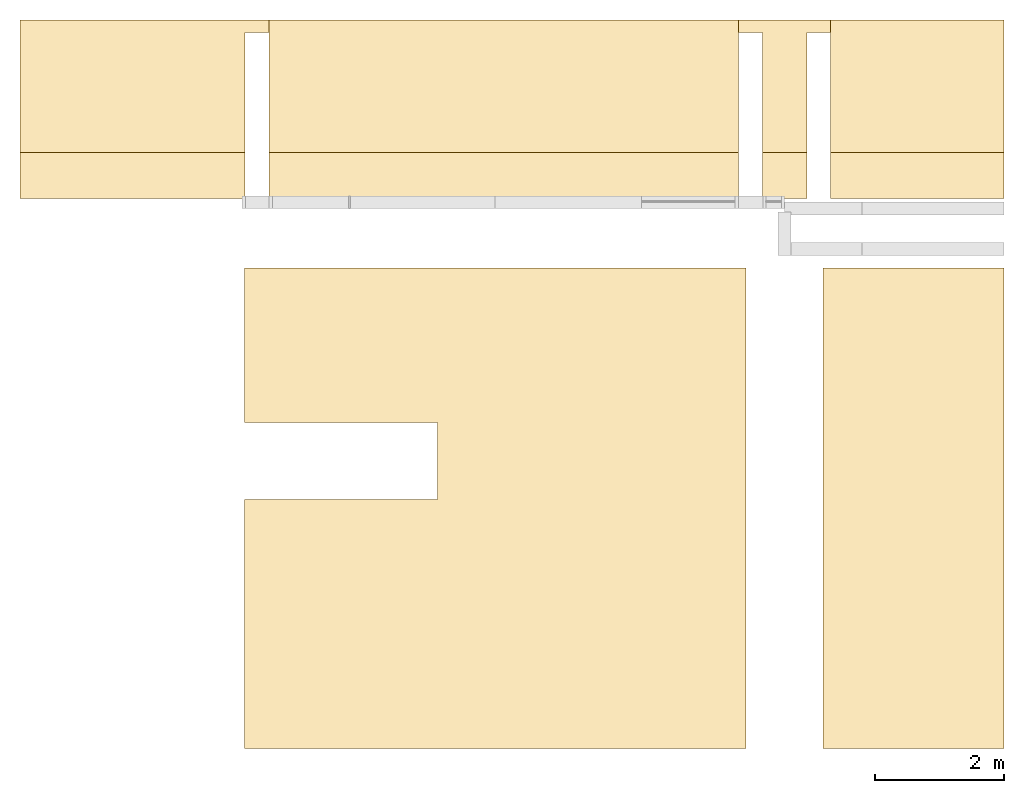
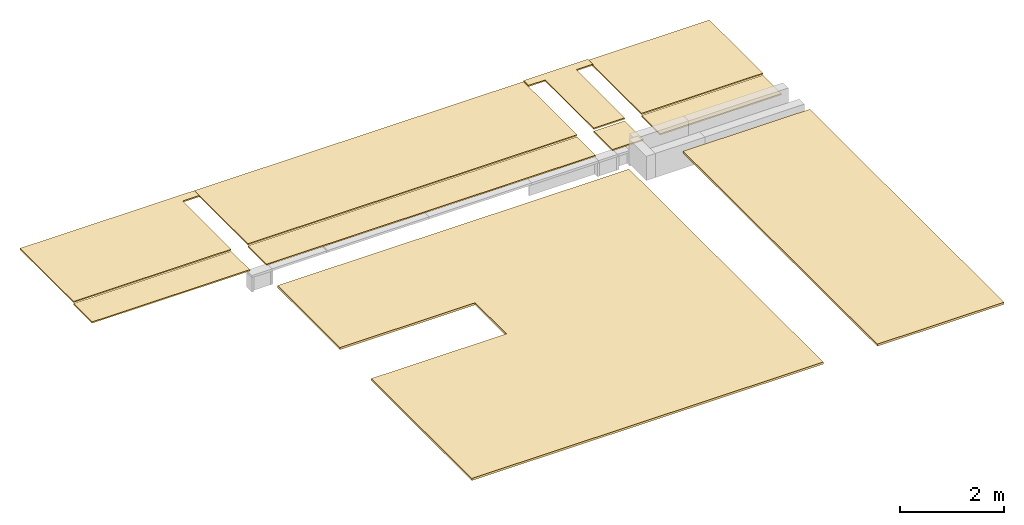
# One storey, part 2 of 2: 10 coverings.
"""IFC2X3 building model written with IfcOpenShell, lengths in millimetres."""

import ifcopenshell
import ifcopenshell.guid

model = None  # the IFC model being written
_history = None  # IfcOwnerHistory: only IFC2X3 demands one
_inside = {}  # id of a spatial element -> (the spatial element, [elements in it])
_under = {}  # id of a project, library or spatial element -> (it, [spatial elements below it])
_declared = {}  # id of a project -> (the project, [libraries it declares])
_typed = {}  # id of a type object -> (the type object, [elements of that type])
_made_of = {}  # id of a material, layer set ... -> (it, [elements and type objects made of it])


def new_model(schema):
    """Start an empty IFC model of exactly this schema.

    Asked for "IFC4X3", IfcOpenShell would pick the latest addendum, in which some entities
    have other attributes; the version numbers below select the first issue.
    IFC2X3 requires an IfcOwnerHistory on every rooted entity: one is made here for all.
    """
    global model, _history
    if schema == "IFC4X3":
        model = ifcopenshell.file(schema_version=(4, 3, 0, 0))
    else:
        model = ifcopenshell.file(schema=schema)
    _inside.clear()
    _under.clear()
    _declared.clear()
    _typed.clear()
    _made_of.clear()
    _history = None
    if model.schema == "IFC2X3":
        org = make("IfcOrganization", Name="unknown")
        user = make(
            "IfcPersonAndOrganization",
            ThePerson=make("IfcPerson", FamilyName="unknown"),
            TheOrganization=org,
        )
        app = make(
            "IfcApplication",
            ApplicationDeveloper=org,
            Version="unknown",
            ApplicationFullName="unknown",
            ApplicationIdentifier="unknown",
        )
        _history = make(
            "IfcOwnerHistory",
            OwningUser=user,
            OwningApplication=app,
            ChangeAction="ADDED",
            CreationDate=0,
        )
    return model


def make(cls, **values):
    """One entity of the class cls with the attributes given. An attribute that is None is left unset."""
    return model.create_entity(
        cls, **{name: value for name, value in values.items() if value is not None}
    )


def entity(cls, *values):
    """Any entity or typed value of the class cls, its attributes in the order of the schema. None: left unset."""
    e = model.create_entity(cls)
    for i, value in enumerate(values):
        if value is not None:
            e[i] = value
    return e


def rooted(cls, **values):
    """An entity with a GlobalId (a new one), such as an element, a storey or a relation."""
    return make(cls, GlobalId=ifcopenshell.guid.new(), OwnerHistory=_history, **values)


def si_unit(unit_type, name, prefix=None):
    """IfcSIUnit, for example si_unit("LENGTHUNIT", "METRE", prefix="MILLI")."""
    return make("IfcSIUnit", UnitType=unit_type, Prefix=prefix, Name=name)


def converted_unit(unit_type, name, factor, base, dimensions=None, offset=None):
    """IfcConversionBasedUnit, such as the inch: factor (a typed value) times the base unit."""
    return make(
        "IfcConversionBasedUnit"
        if offset is None
        else "IfcConversionBasedUnitWithOffset",
        ConversionOffset=offset,
        Dimensions=None
        if dimensions is None
        else entity("IfcDimensionalExponents", *dimensions),
        UnitType=unit_type,
        Name=name,
        ConversionFactor=make(
            "IfcMeasureWithUnit", ValueComponent=factor, UnitComponent=base
        ),
    )


def derived_unit(unit_type, elements):
    """IfcDerivedUnit: a product of units, each with its exponent."""
    return make(
        "IfcDerivedUnit",
        Elements=[
            make("IfcDerivedUnitElement", Unit=unit, Exponent=power)
            for unit, power in elements
        ],
        UnitType=unit_type,
    )


def assignment(units):
    """IfcUnitAssignment: the units of a project."""
    return None if units is None else make("IfcUnitAssignment", Units=units)


def point(xyz):
    """IfcCartesianPoint."""
    return None if xyz is None else make("IfcCartesianPoint", Coordinates=xyz)


def direction(xyz):
    """IfcDirection."""
    return None if xyz is None else make("IfcDirection", DirectionRatios=xyz)


def frame(location, z_axis=None, x_axis=None):
    """IfcAxis2Placement3D, a coordinate frame: its origin and axes. An axis left out is left unset."""
    return make(
        "IfcAxis2Placement3D",
        Location=point(location),
        Axis=direction(z_axis),
        RefDirection=direction(x_axis),
    )


def frame_2d(location, x_axis=None):
    """IfcAxis2Placement2D, a coordinate frame in the plane: its origin and x axis."""
    return make(
        "IfcAxis2Placement2D", Location=point(location), RefDirection=direction(x_axis)
    )


def origin_with_axes():
    """The frame at (0, 0, 0) with the z axis (0, 0, 1) and the x axis (1, 0, 0) written out."""
    return frame((0.0, 0.0, 0.0), z_axis=(0.0, 0.0, 1.0), x_axis=(1.0, 0.0, 0.0))


def origin_2d_with_axis():
    """The frame at (0, 0) in the plane with the x axis (1, 0) written out."""
    return frame_2d((0.0, 0.0), x_axis=(1.0, 0.0))


def place(relative_to, where):
    """IfcLocalPlacement: puts the frame where relative to a parent placement (None: the world)."""
    return make(
        "IfcLocalPlacement", PlacementRelTo=relative_to, RelativePlacement=where
    )


def context(
    kind, dimensions, precision=None, world=None, true_north=None, identifier=None
):
    """IfcGeometricRepresentationContext, for example the 3D "Model" context."""
    return make(
        "IfcGeometricRepresentationContext",
        ContextIdentifier=identifier,
        ContextType=kind,
        CoordinateSpaceDimension=dimensions,
        Precision=precision,
        WorldCoordinateSystem=world,
        TrueNorth=true_north,
    )


def subcontext(parent, identifier, kind, view, scale=None):
    """IfcGeometricRepresentationSubContext, for example "Body" below "Model"."""
    return make(
        "IfcGeometricRepresentationSubContext",
        ContextIdentifier=identifier,
        ContextType=kind,
        ParentContext=parent,
        TargetScale=scale,
        TargetView=view,
    )


def project(units=None, contexts=None):
    """IfcProject with its units and contexts."""
    return rooted(
        "IfcProject",
        Name="project",
        RepresentationContexts=contexts,
        UnitsInContext=assignment(units),
    )


def spatial(cls, under=None, at=None, **own):
    """A site, building, storey or space (cls), placed at a placement, below another one or the project."""
    s = rooted(cls, ObjectPlacement=at, **own)
    if under is not None:
        _under.setdefault(under.id(), (under, []))[1].append(s)
    return s


def profile(cls, at=None, kind="AREA", **sizes):
    """A parametric profile (cls). Its sizes go by their IFC names, for example OverallWidth=200.0."""
    return make(cls, ProfileType=kind, Position=at, **sizes)


def rectangle(**sizes):
    """IfcRectangleProfileDef."""
    return profile("IfcRectangleProfileDef", **sizes)


def extrude(swept, where, along, depth):
    """IfcExtrudedAreaSolid: the profile swept, set in the frame where, extruded along a direction by depth."""
    return make(
        "IfcExtrudedAreaSolid",
        SweptArea=swept,
        Position=where,
        ExtrudedDirection=direction(along),
        Depth=depth,
    )


def faces_of(points, faces, orient=None, outer=None):
    """IfcFace entities. A face is a list of loops; a loop is a list of indices into points, from 0.

    orient and outer hold one flag for each loop. By default every Orientation is true, the
    first loop of a face is its IfcFaceOuterBound and the others are IfcFaceBound.
    """
    made = []
    for i, loops in enumerate(faces):
        bounds = []
        for j, loop in enumerate(loops):
            is_outer = j == 0 if outer is None else outer[i][j]
            bounds.append(
                make(
                    "IfcFaceOuterBound" if is_outer else "IfcFaceBound",
                    Bound=make("IfcPolyLoop", Polygon=[points[k] for k in loop]),
                    Orientation=True if orient is None else orient[i][j],
                )
            )
        made.append(make("IfcFace", Bounds=bounds))
    return made


def faceted_brep(points, faces, orient=None, outer=None, voids=None):
    """IfcFacetedBrep: a solid bounded by flat faces; with voids (closed shells), ...WithVoids."""
    shared = [point(p) for p in points]
    hull = make("IfcClosedShell", CfsFaces=faces_of(shared, faces, orient, outer))
    if voids is None:
        return make("IfcFacetedBrep", Outer=hull)
    return make(
        "IfcFacetedBrepWithVoids",
        Outer=hull,
        Voids=[
            make(cls, CfsFaces=faces_of(shared, fs, o, b)) for cls, fs, o, b in voids
        ],
    )


def shape(context_of_items, identifier, shape_type, items):
    """IfcShapeRepresentation: the items that make up one representation, for example the "Body"."""
    return make(
        "IfcShapeRepresentation",
        ContextOfItems=context_of_items,
        RepresentationIdentifier=identifier,
        RepresentationType=shape_type,
        Items=items,
    )


def material(Name=None, Category=None):
    """IfcMaterial."""
    return make("IfcMaterial", Name=Name, Category=Category)


def layer(
    of_material, thickness, ventilated=None, Name=None, Category=None, Priority=None
):
    """IfcMaterialLayer: one layer of a wall or slab, of a material (None: an air gap)."""
    return make(
        "IfcMaterialLayer",
        Material=of_material,
        LayerThickness=thickness,
        IsVentilated=ventilated,
        Name=Name,
        Category=Category,
        Priority=Priority,
    )


def layer_set(layers, Name=None):
    """IfcMaterialLayerSet."""
    return make("IfcMaterialLayerSet", MaterialLayers=layers, LayerSetName=Name)


def layer_usage(for_layer_set, set_direction, sense, offset, extent=None):
    """IfcMaterialLayerSetUsage: how a layer set lies in its element."""
    return make(
        "IfcMaterialLayerSetUsage",
        ForLayerSet=for_layer_set,
        LayerSetDirection=set_direction,
        DirectionSense=sense,
        OffsetFromReferenceLine=offset,
        ReferenceExtent=extent,
    )


def made_of(thing, what):
    """Note that an element or type object is made of a material, layer set ...; save() writes the relation."""
    if what is not None:
        _made_of.setdefault(what.id(), (what, []))[1].append(thing)
    return thing


def type_object(cls, material=None, **own):
    """A type object (cls), such as IfcWallType, which elements share."""
    return made_of(rooted(cls, **own), material)


def element(
    cls,
    number,
    at=None,
    inside=None,
    cuts=None,
    type_object=None,
    material=None,
    context=None,
    identifier="Body",
    shape_type=None,
    held_by="IfcProductDefinitionShape",
    body=None,
    shapes=None,
    **own,
):
    """One element of the class cls, such as IfcWall. Its Tag is "e" and its number.

    at: its placement. inside: the storey or other place that contains it. cuts: it is an
    opening in that element (IfcRelVoidsElement). A single representation is given by context,
    identifier, shape_type and body (its items); several are given by shapes. held_by: the class
    of the entity that holds the representations. save() writes the other relations.
    """
    e = rooted(cls, Tag="e%d" % number, ObjectPlacement=at, **own)
    if body is not None:
        shapes = [shape(context, identifier, shape_type, body)]
    if shapes is not None:
        e.Representation = make(held_by, Representations=shapes)
    if inside is not None:
        _inside.setdefault(inside.id(), (inside, []))[1].append(e)
    if cuts is not None:
        rooted(
            "IfcRelVoidsElement", RelatingBuildingElement=cuts, RelatedOpeningElement=e
        )
    if type_object is not None:
        _typed.setdefault(type_object.id(), (type_object, []))[1].append(e)
    return made_of(e, material)


def aggregate(whole, parts):
    """IfcRelAggregates: a whole, such as a stair, and the parts it consists of."""
    return rooted("IfcRelAggregates", RelatingObject=whole, RelatedObjects=parts)


def save(model, path):
    """Write the relations noted so far, then the file.

    IfcRelAggregates (storeys below a building ...), IfcRelContainedInSpatialStructure (elements
    in a storey), IfcRelDefinesByType, IfcRelAssociatesMaterial and IfcRelDeclares: one each for
    every whole, place, type object, material and project.
    """
    for whole, parts in _under.values():
        aggregate(whole, parts)
    for where, things in _inside.values():
        rooted(
            "IfcRelContainedInSpatialStructure",
            RelatedElements=things,
            RelatingStructure=where,
        )
    for kind, things in _typed.values():
        rooted("IfcRelDefinesByType", RelatedObjects=things, RelatingType=kind)
    for what, things in _made_of.values():
        rooted("IfcRelAssociatesMaterial", RelatedObjects=things, RelatingMaterial=what)
    for by, libraries in _declared.values():
        rooted("IfcRelDeclares", RelatingContext=by, RelatedDefinitions=libraries)
    model.write(path)


model = new_model("IFC2X3")

# Units and contexts
model_context = context("Model", 3, precision=0.01, world=frame((0.0, 4.29681676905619e-09, 0.0)), true_north=direction((4.01073788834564e-13, 1.0)))
plan_context = context("Plan", 3, precision=0.01, world=frame((0.0, 4.29681676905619e-09, 0.0)), true_north=direction((4.01073788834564e-13, 1.0)))
body_context = subcontext(model_context, "Body", "Model", "MODEL_VIEW")
ifc_project = project(units=[converted_unit("PLANEANGLEUNIT", "DEGREE", entity("IfcPositiveLengthMeasure", 0.0174532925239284), si_unit("PLANEANGLEUNIT", "RADIAN"), dimensions=[0, 0, 0, 0, 0, 0, 0]), si_unit("AREAUNIT", "SQUARE_METRE"), si_unit("LENGTHUNIT", "METRE", prefix="MILLI"), si_unit("MASSUNIT", "GRAM", prefix="KILO"), si_unit("POWERUNIT", "WATT"), si_unit("PRESSUREUNIT", "PASCAL"), si_unit("FORCEUNIT", "NEWTON", prefix="KILO"), si_unit("ELECTRICVOLTAGEUNIT", "VOLT"), si_unit("ELECTRICCURRENTUNIT", "AMPERE"), si_unit("THERMODYNAMICTEMPERATUREUNIT", "DEGREE_CELSIUS"), si_unit("TIMEUNIT", "SECOND"), si_unit("VOLUMEUNIT", "CUBIC_METRE"), derived_unit("LINEARVELOCITYUNIT", [(si_unit("LENGTHUNIT", "METRE"), 1), (si_unit("TIMEUNIT", "SECOND"), -1)]), derived_unit("VOLUMETRICFLOWRATEUNIT", [(si_unit("VOLUMEUNIT", "CUBIC_METRE"), 1), (si_unit("TIMEUNIT", "SECOND"), -1)]), derived_unit("THERMALTRANSMITTANCEUNIT", [(si_unit("POWERUNIT", "WATT"), 1), (si_unit("THERMODYNAMICTEMPERATUREUNIT", "KELVIN"), -1), (si_unit("AREAUNIT", "SQUARE_METRE"), -1)]), derived_unit("SOUNDPRESSUREUNIT", [(si_unit("PRESSUREUNIT", "PASCAL"), 1)])], contexts=[model_context, plan_context])

# Site, building, storey
site_placement = place(None, origin_with_axes())
site = spatial("IfcSite", under=ifc_project, at=site_placement, Name="ENGM", CompositionType="ELEMENT")
building_placement = place(site_placement, origin_with_axes())
building = spatial("IfcBuilding", under=site, at=building_placement, Name="TH", CompositionType="ELEMENT")
storey_placement = place(building_placement, frame((0.0, 0.0, 205200.0), z_axis=(0.0, 0.0, 1.0), x_axis=(1.0, 0.0, 0.0)))
storey = spatial("IfcBuildingStorey", under=building, at=storey_placement, Name="Nivå D + 1,2 m", CompositionType="ELEMENT", Elevation=205200.0)

# Coverings
ifc_material = material(Name="T2_Himling Perforerte Metallkassetter 600 x 3000mm")
ifc_layer = layer(ifc_material, 30.0)
ifc_layer_set = layer_set([ifc_layer], Name="Compound Ceiling:A255 - Perforerte metallkasetter 3000x600")
ifc_layer_usage_1 = layer_usage(ifc_layer_set, "AXIS3", "NEGATIVE", 30.0)
covering_type_1 = type_object("IfcCoveringType", Name="Compound Ceiling:A255 - Perforerte metallkasetter 3000x600", PredefinedType="CEILING")
covering_1_placement = place(storey_placement, origin_with_axes())
element("IfcCovering", 1, at=covering_1_placement, inside=storey, type_object=covering_type_1, material=ifc_layer_usage_1, Name="Compound Ceiling:A255 - Perforerte metallkasetter 3000x600", ObjectType="Compound Ceiling:A255 - Perforerte metallkasetter 3000x600", PredefinedType="CEILING", context=body_context, shape_type="SweptSolid", body=[
    extrude(rectangle(XDim=715.000000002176, YDim=7304.86118256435, at=origin_2d_with_axis()), frame((902632.574431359, 484942.110571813, 4244.0), z_axis=(0.0, 0.0, 1.0), x_axis=(0.0, -1.0, 0.0)), (0.0, 0.0, 1.0), 29.9999999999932),
])
ifc_layer_usage_2 = layer_usage(ifc_layer_set, "AXIS3", "NEGATIVE", 30.0)
covering_2_placement = place(storey_placement, origin_with_axes())
element("IfcCovering", 2, at=covering_2_placement, inside=storey, type_object=covering_type_1, material=ifc_layer_usage_2, Name="Compound Ceiling:A255 - Perforerte metallkasetter 3000x600", ObjectType="Compound Ceiling:A255 - Perforerte metallkasetter 3000x600", PredefinedType="CEILING", context=body_context, shape_type="SweptSolid", body=[
    extrude(rectangle(XDim=715.000000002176, YDim=689.856159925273, at=frame_2d((3.46460637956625e-11, 0.0), x_axis=(1.0, 0.0))), frame((907000.07192004, 484942.110571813, 4244.0), z_axis=(0.0, 0.0, 1.0), x_axis=(0.0, -1.0, 0.0)), (0.0, 0.0, 1.0), 29.9999999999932),
])
covering_3_placement = place(storey_placement, origin_with_axes())
element("IfcCovering", 3, at=covering_3_placement, inside=storey, type_object=covering_type_1, Name="Compound Ceiling:A255 - Perforerte metallkasetter 3000x600", ObjectType="Compound Ceiling:A255 - Perforerte metallkasetter 3000x600", PredefinedType="CEILING", context=body_context, shape_type="Brep", body=[
    faceted_brep([(895111.906168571, 485299.610571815, 4290.0), (895111.906168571, 485299.610571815, 4319.99999999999), (898610.005022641, 485299.610571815, 4319.99999999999), (898610.005022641, 485299.610571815, 4290.0), (898610.005022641, 487164.999999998, 4319.99999999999), (898610.005022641, 487164.999999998, 4290.0), (898980.143840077, 487164.999999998, 4319.99999999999), (898980.143840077, 487164.999999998, 4290.0), (898980.143840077, 487357.650000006, 4319.99999999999), (898980.143840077, 487357.650000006, 4290.0), (895111.906168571, 487357.650000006, 4290.0), (895111.906168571, 487357.650000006, 4319.99999999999)], [[[0, 1, 2, 3]], [[3, 2, 4, 5]], [[5, 4, 6, 7]], [[8, 9, 7, 6]], [[9, 10, 0, 3, 5, 7]], [[1, 11, 8, 6, 4, 2]], [[10, 9, 8, 11]], [[11, 1, 0, 10]]], orient=[[False], [False], [False], [False], [False], [False], [False], [False]]),
])
covering_4_placement = place(storey_placement, origin_with_axes())
element("IfcCovering", 4, at=covering_4_placement, inside=storey, type_object=covering_type_1, Name="Compound Ceiling:A255 - Perforerte metallkasetter 3000x600", ObjectType="Compound Ceiling:A255 - Perforerte metallkasetter 3000x600", PredefinedType="CEILING", context=body_context, shape_type="Brep", body=[
    faceted_brep([(895111.906168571, 485299.610571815, 4273.99999999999), (895111.906168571, 485299.610571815, 4244.0), (898610.005022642, 485299.610571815, 4244.0), (898610.005022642, 485299.610571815, 4273.99999999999), (895111.906168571, 484584.610571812, 4244.0), (895111.906168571, 484584.610571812, 4273.99999999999), (898610.005022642, 484584.610571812, 4273.99999999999), (898610.005022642, 484584.610571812, 4244.0)], [[[0, 1, 2, 3]], [[4, 5, 6, 7]], [[7, 6, 3, 2]], [[1, 4, 7, 2]], [[5, 0, 3, 6]], [[5, 4, 1, 0]]], orient=[[False], [False], [False], [False], [False], [False]]),
])
covering_5_placement = place(storey_placement, origin_with_axes())
element("IfcCovering", 5, at=covering_5_placement, inside=storey, type_object=covering_type_1, Name="Compound Ceiling:A255 - Perforerte metallkasetter 3000x600", ObjectType="Compound Ceiling:A255 - Perforerte metallkasetter 3000x600", PredefinedType="CEILING", context=body_context, shape_type="Brep", body=[
    faceted_brep([(898980.143840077, 487357.650000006, 4290.0), (898980.143840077, 487357.650000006, 4319.99999999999), (898980.143840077, 485299.610571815, 4319.99999999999), (898980.143840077, 485299.610571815, 4290.0), (906285.005022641, 485299.610571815, 4319.99999999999), (906285.005022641, 485299.610571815, 4290.0), (906285.005022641, 487357.650000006, 4319.99999999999), (906285.005022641, 487357.650000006, 4290.0)], [[[0, 1, 2, 3]], [[3, 2, 4, 5]], [[6, 7, 5, 4]], [[7, 0, 3, 5]], [[1, 6, 4, 2]], [[7, 6, 1, 0]]], orient=[[False], [False], [False], [False], [False], [False]]),
])
covering_6_placement = place(storey_placement, origin_with_axes())
element("IfcCovering", 6, at=covering_6_placement, inside=storey, type_object=covering_type_1, Name="Compound Ceiling:A255 - Perforerte metallkasetter 3000x600", ObjectType="Compound Ceiling:A255 - Perforerte metallkasetter 3000x600", PredefinedType="CEILING", context=body_context, shape_type="Brep", body=[
    faceted_brep([(906655.143840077, 487164.999999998, 4315.0), (906655.143840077, 487164.999999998, 4344.99999999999), (906655.143840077, 485299.610571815, 4344.99999999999), (906655.143840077, 485299.610571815, 4315.0), (907345.000000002, 485299.610571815, 4344.99999999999), (907345.000000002, 485299.610571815, 4315.0), (907345.000000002, 487164.999999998, 4344.99999999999), (907345.000000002, 487164.999999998, 4315.0), (907715.143840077, 487164.999999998, 4344.99999999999), (907715.143840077, 487164.999999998, 4315.0), (907715.143840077, 487357.650000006, 4344.99999999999), (907715.143840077, 487357.650000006, 4315.0), (906285.005022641, 487357.650000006, 4315.0), (906285.005022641, 487357.650000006, 4344.99999999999), (906285.005022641, 487164.999999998, 4344.99999999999), (906285.005022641, 487164.999999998, 4315.0)], [[[0, 1, 2, 3]], [[3, 2, 4, 5]], [[5, 4, 6, 7]], [[7, 6, 8, 9]], [[10, 11, 9, 8]], [[12, 13, 14, 15]], [[15, 14, 1, 0]], [[11, 12, 15, 0, 3, 5, 7, 9]], [[13, 10, 8, 6, 4, 2, 1, 14]], [[13, 12, 11, 10]]], orient=[[False], [False], [False], [False], [False], [False], [False], [False], [False], [False]]),
])
covering_7_placement = place(storey_placement, origin_with_axes())
element("IfcCovering", 7, at=covering_7_placement, inside=storey, type_object=covering_type_1, Name="Compound Ceiling:A255 - Perforerte metallkasetter 3000x600", ObjectType="Compound Ceiling:A255 - Perforerte metallkasetter 3000x600", PredefinedType="CEILING", context=body_context, shape_type="Brep", body=[
    faceted_brep([(907715.143840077, 487357.650000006, 4290.0), (907715.143840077, 487357.650000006, 4319.99999999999), (907715.143840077, 485299.610571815, 4319.99999999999), (907715.143840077, 485299.610571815, 4290.0), (910410.5848418, 485299.610571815, 4319.99999999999), (910410.5848418, 485299.610571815, 4290.0), (910410.5848418, 487357.650000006, 4290.0), (910410.5848418, 487357.650000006, 4319.99999999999)], [[[0, 1, 2, 3]], [[4, 5, 3, 2]], [[5, 6, 0, 3]], [[1, 7, 4, 2]], [[6, 5, 4, 7]], [[7, 1, 0, 6]]], orient=[[False], [False], [False], [False], [False], [False]]),
])
covering_8_placement = place(storey_placement, origin_with_axes())
element("IfcCovering", 8, at=covering_8_placement, inside=storey, type_object=covering_type_1, Name="Compound Ceiling:A255 - Perforerte metallkasetter 3000x600", ObjectType="Compound Ceiling:A255 - Perforerte metallkasetter 3000x600", PredefinedType="CEILING", context=body_context, shape_type="Brep", body=[
    faceted_brep([(910410.5848418, 485299.610571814, 4244.0), (910410.5848418, 485299.610571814, 4273.99999999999), (907715.143840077, 485299.610571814, 4273.99999999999), (907715.143840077, 485299.610571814, 4244.0), (907715.143840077, 484584.610571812, 4273.99999999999), (907715.143840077, 484584.610571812, 4244.0), (910410.5848418, 484584.610571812, 4273.99999999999), (910410.5848418, 484584.610571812, 4244.0)], [[[0, 1, 2, 3]], [[3, 2, 4, 5]], [[6, 7, 5, 4]], [[7, 0, 3, 5]], [[1, 6, 4, 2]], [[7, 6, 1, 0]]], orient=[[False], [False], [False], [False], [False], [False]]),
])
covering_type_2 = type_object("IfcCoveringType", Name="Compound Ceiling:A255 - eksisterende mineralullsystemhimling 1200x600", PredefinedType="CEILING")
covering_9_placement = place(storey_placement, origin_with_axes())
element("IfcCovering", 9, at=covering_9_placement, inside=storey, type_object=covering_type_2, Name="Compound Ceiling:A255 - eksisterende mineralullsystemhimling 1200x600", ObjectType="Compound Ceiling:A255 - eksisterende mineralullsystemhimling 1200x600", PredefinedType="CEILING", context=body_context, shape_type="Brep", body=[
    faceted_brep([(906399.99999998, 483500.000000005, 4515.0), (906399.99999998, 483500.000000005, 4564.99999999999), (898599.99999998, 483500.000000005, 4564.99999999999), (898599.99999998, 483500.000000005, 4515.0), (898599.99999998, 481100.000000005, 4564.99999999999), (898599.99999998, 481100.000000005, 4515.0), (901599.99999998, 481100.000000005, 4564.99999999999), (901599.99999998, 481100.000000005, 4515.0), (901599.99999998, 479900.000000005, 4564.99999999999), (901599.99999998, 479900.000000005, 4515.0), (898599.99999998, 479900.000000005, 4564.99999999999), (898599.99999998, 479900.000000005, 4515.0), (898599.99999998, 476034.676920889, 4564.99999999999), (898599.99999998, 476034.676920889, 4515.0), (906399.99999998, 476034.676920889, 4515.0), (906399.99999998, 476034.676920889, 4564.99999999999)], [[[0, 1, 2, 3]], [[3, 2, 4, 5]], [[5, 4, 6, 7]], [[7, 6, 8, 9]], [[9, 8, 10, 11]], [[12, 13, 11, 10]], [[14, 15, 1, 0]], [[13, 14, 0, 3, 5, 7, 9, 11]], [[15, 12, 10, 8, 6, 4, 2, 1]], [[15, 14, 13, 12]]], orient=[[False], [False], [False], [False], [False], [False], [False], [False], [False], [False]]),
])
covering_10_placement = place(storey_placement, origin_with_axes())
element("IfcCovering", 10, at=covering_10_placement, inside=storey, type_object=covering_type_2, Name="Compound Ceiling:A255 - eksisterende mineralullsystemhimling 1200x600", ObjectType="Compound Ceiling:A255 - eksisterende mineralullsystemhimling 1200x600", PredefinedType="CEILING", context=body_context, shape_type="Brep", body=[
    faceted_brep([(910410.5848418, 483500.000000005, 4515.0), (910410.5848418, 483500.000000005, 4564.99999999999), (907599.999999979, 483500.000000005, 4564.99999999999), (907599.999999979, 483500.000000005, 4515.0), (907599.999999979, 476034.676920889, 4564.99999999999), (907599.999999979, 476034.676920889, 4515.0), (910410.5848418, 476034.676920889, 4515.0), (910410.5848418, 476034.676920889, 4564.99999999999)], [[[0, 1, 2, 3]], [[4, 5, 3, 2]], [[5, 6, 0, 3]], [[1, 7, 4, 2]], [[7, 1, 0, 6]], [[6, 5, 4, 7]]], orient=[[False], [False], [False], [False], [False], [False]]),
])

save(model, "model.ifc")
